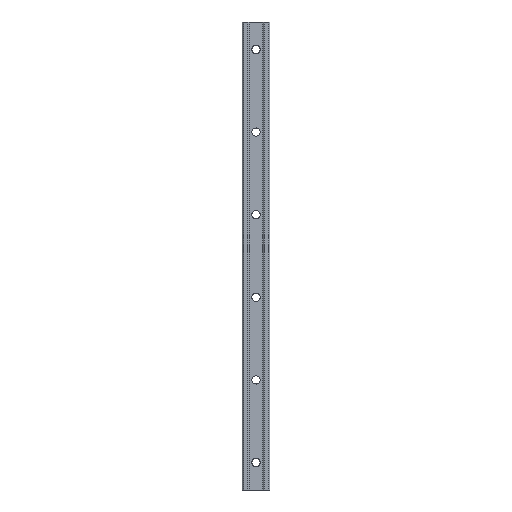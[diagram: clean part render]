
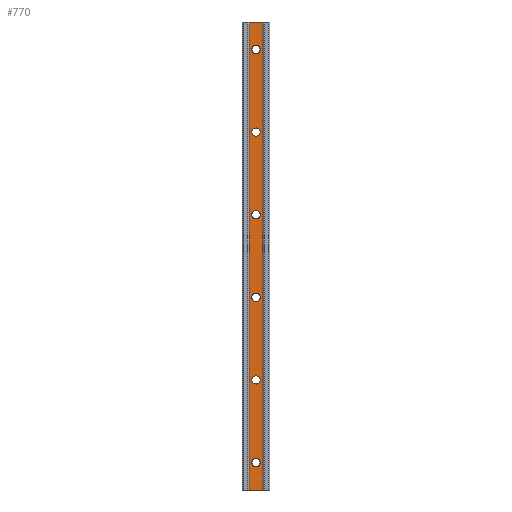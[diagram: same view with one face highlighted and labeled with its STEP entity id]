
A CAD part, front view. The second image highlights one B-rep face of the part: STEP entity #770.
In plain terms, the highlighted planar face has unit normal (0, -1, 0).
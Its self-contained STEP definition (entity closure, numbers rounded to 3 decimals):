
#23 = CARTESIAN_POINT ( 'NONE',  ( 0., 1., 150. ) ) ;
#27 = CARTESIAN_POINT ( 'NONE',  ( -5., 1., -170. ) ) ;
#30 = VERTEX_POINT ( 'NONE', #1234 ) ;
#39 = CARTESIAN_POINT ( 'NONE',  ( 0., 1., -87. ) ) ;
#41 = DIRECTION ( 'NONE',  ( 0., 1., 0. ) ) ;
#49 = EDGE_CURVE ( 'NONE', #266, #128, #1496, .T. ) ;
#70 = EDGE_LOOP ( 'NONE', ( #1321, #370 ) ) ;
#86 = EDGE_CURVE ( 'NONE', #1303, #554, #959, .T. ) ;
#91 = ORIENTED_EDGE ( 'NONE', *, *, #377, .T. ) ;
#109 = DIRECTION ( 'NONE',  ( 0., 1., 0. ) ) ;
#116 = DIRECTION ( 'NONE',  ( 0., 1., 0. ) ) ;
#118 = AXIS2_PLACEMENT_3D ( 'NONE', #23, #268, #1156 ) ;
#123 = LINE ( 'NONE', #994, #1599 ) ;
#128 = VERTEX_POINT ( 'NONE', #1542 ) ;
#136 = LINE ( 'NONE', #1431, #1743 ) ;
#156 = EDGE_CURVE ( 'NONE', #1027, #1220, #365, .T. ) ;
#167 = DIRECTION ( 'NONE',  ( 0., 0., 1. ) ) ;
#199 = AXIS2_PLACEMENT_3D ( 'NONE', #1609, #1172, #167 ) ;
#218 = EDGE_LOOP ( 'NONE', ( #1497, #759 ) ) ;
#221 = VERTEX_POINT ( 'NONE', #1690 ) ;
#228 = DIRECTION ( 'NONE',  ( 0., 1., 0. ) ) ;
#253 = VECTOR ( 'NONE', #675, 1000. ) ;
#257 = AXIS2_PLACEMENT_3D ( 'NONE', #783, #1077, #1395 ) ;
#266 = VERTEX_POINT ( 'NONE', #378 ) ;
#268 = DIRECTION ( 'NONE',  ( 0., 1., 0. ) ) ;
#269 = DIRECTION ( 'NONE',  ( 0., 1., 0. ) ) ;
#280 = ORIENTED_EDGE ( 'NONE', *, *, #501, .T. ) ;
#290 = DIRECTION ( 'NONE',  ( 0., 0., 1. ) ) ;
#294 = ORIENTED_EDGE ( 'NONE', *, *, #790, .T. ) ;
#315 = EDGE_CURVE ( 'NONE', #1748, #921, #1051, .T. ) ;
#318 = CARTESIAN_POINT ( 'NONE',  ( 0., 1., 27. ) ) ;
#325 = FACE_BOUND ( 'NONE', #218, .T. ) ;
#328 = VERTEX_POINT ( 'NONE', #1267 ) ;
#348 = VERTEX_POINT ( 'NONE', #969 ) ;
#356 = CARTESIAN_POINT ( 'NONE',  ( 0., 1., -90. ) ) ;
#365 = LINE ( 'NONE', #1251, #981 ) ;
#370 = ORIENTED_EDGE ( 'NONE', *, *, #1823, .T. ) ;
#374 = DIRECTION ( 'NONE',  ( 0., 1., 0. ) ) ;
#377 = EDGE_CURVE ( 'NONE', #1499, #1699, #806, .T. ) ;
#378 = CARTESIAN_POINT ( 'NONE',  ( 0., 1., -147. ) ) ;
#403 = EDGE_CURVE ( 'NONE', #221, #1220, #123, .T. ) ;
#422 = ORIENTED_EDGE ( 'NONE', *, *, #49, .T. ) ;
#439 = FACE_BOUND ( 'NONE', #1529, .T. ) ;
#501 = EDGE_CURVE ( 'NONE', #921, #1748, #504, .T. ) ;
#504 = CIRCLE ( 'NONE', #118, 3. ) ;
#506 = CARTESIAN_POINT ( 'NONE',  ( -5., 1., 170. ) ) ;
#510 = DIRECTION ( 'NONE',  ( -1., 0., 0. ) ) ;
#515 = ORIENTED_EDGE ( 'NONE', *, *, #1128, .T. ) ;
#523 = DIRECTION ( 'NONE',  ( 0., 0., 1. ) ) ;
#554 = VERTEX_POINT ( 'NONE', #39 ) ;
#600 = EDGE_LOOP ( 'NONE', ( #422, #515 ) ) ;
#603 = EDGE_LOOP ( 'NONE', ( #294, #91 ) ) ;
#604 = EDGE_CURVE ( 'NONE', #328, #621, #1528, .T. ) ;
#621 = VERTEX_POINT ( 'NONE', #318 ) ;
#629 = DIRECTION ( 'NONE',  ( 0., 1., 0. ) ) ;
#649 = VERTEX_POINT ( 'NONE', #1015 ) ;
#666 = CIRCLE ( 'NONE', #1675, 3. ) ;
#675 = DIRECTION ( 'NONE',  ( -1., 0., 0. ) ) ;
#713 = FACE_BOUND ( 'NONE', #836, .T. ) ;
#730 = DIRECTION ( 'NONE',  ( 0., 1., 0. ) ) ;
#739 = ORIENTED_EDGE ( 'NONE', *, *, #403, .F. ) ;
#754 = CARTESIAN_POINT ( 'NONE',  ( 0., 1., -30. ) ) ;
#759 = ORIENTED_EDGE ( 'NONE', *, *, #1435, .T. ) ;
#770 = ADVANCED_FACE ( 'NONE', ( #1576, #325, #1491, #439, #1095, #713, #1123 ), #1718, .F. ) ;
#783 = CARTESIAN_POINT ( 'NONE',  ( 0., 1., -150. ) ) ;
#790 = EDGE_CURVE ( 'NONE', #1699, #1499, #666, .T. ) ;
#806 = CIRCLE ( 'NONE', #1611, 3. ) ;
#816 = CARTESIAN_POINT ( 'NONE',  ( -5., 1., -170. ) ) ;
#836 = EDGE_LOOP ( 'NONE', ( #1684, #280 ) ) ;
#847 = CARTESIAN_POINT ( 'NONE',  ( 0., 1., 30. ) ) ;
#857 = ORIENTED_EDGE ( 'NONE', *, *, #156, .T. ) ;
#879 = AXIS2_PLACEMENT_3D ( 'NONE', #1716, #269, #1009 ) ;
#883 = AXIS2_PLACEMENT_3D ( 'NONE', #1809, #1402, #1655 ) ;
#896 = EDGE_CURVE ( 'NONE', #348, #1027, #136, .T. ) ;
#921 = VERTEX_POINT ( 'NONE', #1331 ) ;
#939 = AXIS2_PLACEMENT_3D ( 'NONE', #1129, #1681, #1561 ) ;
#944 = AXIS2_PLACEMENT_3D ( 'NONE', #356, #109, #951 ) ;
#951 = DIRECTION ( 'NONE',  ( 0., 0., 1. ) ) ;
#959 = CIRCLE ( 'NONE', #1177, 3. ) ;
#965 = ORIENTED_EDGE ( 'NONE', *, *, #1245, .F. ) ;
#969 = CARTESIAN_POINT ( 'NONE',  ( 5., 1., -170. ) ) ;
#981 = VECTOR ( 'NONE', #510, 1000. ) ;
#994 = CARTESIAN_POINT ( 'NONE',  ( -5., 1., -170. ) ) ;
#1009 = DIRECTION ( 'NONE',  ( 0., 0., 1. ) ) ;
#1015 = CARTESIAN_POINT ( 'NONE',  ( 0., 1., 87. ) ) ;
#1019 = CARTESIAN_POINT ( 'NONE',  ( 0., 1., -33. ) ) ;
#1027 = VERTEX_POINT ( 'NONE', #1316 ) ;
#1037 = EDGE_LOOP ( 'NONE', ( #857, #739, #965, #1150 ) ) ;
#1038 = ORIENTED_EDGE ( 'NONE', *, *, #1143, .T. ) ;
#1051 = CIRCLE ( 'NONE', #939, 3. ) ;
#1077 = DIRECTION ( 'NONE',  ( 0., 1., 0. ) ) ;
#1095 = FACE_BOUND ( 'NONE', #600, .T. ) ;
#1108 = DIRECTION ( 'NONE',  ( 0., 0., 1. ) ) ;
#1109 = CARTESIAN_POINT ( 'NONE',  ( 0., 1., -90. ) ) ;
#1119 = CIRCLE ( 'NONE', #944, 3. ) ;
#1123 = FACE_OUTER_BOUND ( 'NONE', #1037, .T. ) ;
#1128 = EDGE_CURVE ( 'NONE', #128, #266, #1365, .T. ) ;
#1129 = CARTESIAN_POINT ( 'NONE',  ( 0., 1., 150. ) ) ;
#1143 = EDGE_CURVE ( 'NONE', #554, #1303, #1119, .T. ) ;
#1150 = ORIENTED_EDGE ( 'NONE', *, *, #896, .T. ) ;
#1156 = DIRECTION ( 'NONE',  ( 0., 0., 1. ) ) ;
#1157 = DIRECTION ( 'NONE',  ( 0., 0., 1. ) ) ;
#1172 = DIRECTION ( 'NONE',  ( 0., 1., 0. ) ) ;
#1177 = AXIS2_PLACEMENT_3D ( 'NONE', #1109, #374, #523 ) ;
#1201 = AXIS2_PLACEMENT_3D ( 'NONE', #27, #730, #1575 ) ;
#1220 = VERTEX_POINT ( 'NONE', #506 ) ;
#1234 = CARTESIAN_POINT ( 'NONE',  ( 0., 1., 93. ) ) ;
#1244 = CARTESIAN_POINT ( 'NONE',  ( 0., 1., 90. ) ) ;
#1245 = EDGE_CURVE ( 'NONE', #348, #221, #1759, .T. ) ;
#1251 = CARTESIAN_POINT ( 'NONE',  ( -5., 1., 170. ) ) ;
#1263 = AXIS2_PLACEMENT_3D ( 'NONE', #847, #41, #1157 ) ;
#1267 = CARTESIAN_POINT ( 'NONE',  ( 0., 1., 33. ) ) ;
#1292 = DIRECTION ( 'NONE',  ( 0., 0., 1. ) ) ;
#1303 = VERTEX_POINT ( 'NONE', #1404 ) ;
#1316 = CARTESIAN_POINT ( 'NONE',  ( 5., 1., 170. ) ) ;
#1321 = ORIENTED_EDGE ( 'NONE', *, *, #1437, .T. ) ;
#1331 = CARTESIAN_POINT ( 'NONE',  ( 0., 1., 147. ) ) ;
#1351 = DIRECTION ( 'NONE',  ( 0., 0., 1. ) ) ;
#1365 = CIRCLE ( 'NONE', #257, 3. ) ;
#1383 = ORIENTED_EDGE ( 'NONE', *, *, #86, .T. ) ;
#1395 = DIRECTION ( 'NONE',  ( 0., 0., 1. ) ) ;
#1402 = DIRECTION ( 'NONE',  ( 0., 1., 0. ) ) ;
#1404 = CARTESIAN_POINT ( 'NONE',  ( 0., 1., -93. ) ) ;
#1431 = CARTESIAN_POINT ( 'NONE',  ( 5., 1., -170. ) ) ;
#1435 = EDGE_CURVE ( 'NONE', #621, #328, #1778, .T. ) ;
#1437 = EDGE_CURVE ( 'NONE', #30, #649, #1633, .T. ) ;
#1491 = FACE_BOUND ( 'NONE', #603, .T. ) ;
#1496 = CIRCLE ( 'NONE', #883, 3. ) ;
#1497 = ORIENTED_EDGE ( 'NONE', *, *, #604, .T. ) ;
#1499 = VERTEX_POINT ( 'NONE', #1019 ) ;
#1511 = CARTESIAN_POINT ( 'NONE',  ( 0., 1., 153. ) ) ;
#1518 = CARTESIAN_POINT ( 'NONE',  ( 0., 1., -27. ) ) ;
#1528 = CIRCLE ( 'NONE', #199, 3. ) ;
#1529 = EDGE_LOOP ( 'NONE', ( #1038, #1383 ) ) ;
#1542 = CARTESIAN_POINT ( 'NONE',  ( 0., 1., -153. ) ) ;
#1561 = DIRECTION ( 'NONE',  ( 0., 0., 1. ) ) ;
#1575 = DIRECTION ( 'NONE',  ( 0., 0., 1. ) ) ;
#1576 = FACE_BOUND ( 'NONE', #70, .T. ) ;
#1599 = VECTOR ( 'NONE', #1292, 1000. ) ;
#1609 = CARTESIAN_POINT ( 'NONE',  ( 0., 1., 30. ) ) ;
#1611 = AXIS2_PLACEMENT_3D ( 'NONE', #1692, #116, #1108 ) ;
#1633 = CIRCLE ( 'NONE', #879, 3. ) ;
#1644 = AXIS2_PLACEMENT_3D ( 'NONE', #1244, #228, #1680 ) ;
#1655 = DIRECTION ( 'NONE',  ( 0., 0., 1. ) ) ;
#1675 = AXIS2_PLACEMENT_3D ( 'NONE', #754, #629, #1351 ) ;
#1680 = DIRECTION ( 'NONE',  ( 0., 0., 1. ) ) ;
#1681 = DIRECTION ( 'NONE',  ( 0., 1., 0. ) ) ;
#1684 = ORIENTED_EDGE ( 'NONE', *, *, #315, .T. ) ;
#1690 = CARTESIAN_POINT ( 'NONE',  ( -5., 1., -170. ) ) ;
#1692 = CARTESIAN_POINT ( 'NONE',  ( 0., 1., -30. ) ) ;
#1696 = CIRCLE ( 'NONE', #1644, 3. ) ;
#1699 = VERTEX_POINT ( 'NONE', #1518 ) ;
#1716 = CARTESIAN_POINT ( 'NONE',  ( 0., 1., 90. ) ) ;
#1718 = PLANE ( 'NONE',  #1201 ) ;
#1743 = VECTOR ( 'NONE', #290, 1000. ) ;
#1748 = VERTEX_POINT ( 'NONE', #1511 ) ;
#1759 = LINE ( 'NONE', #816, #253 ) ;
#1778 = CIRCLE ( 'NONE', #1263, 3. ) ;
#1809 = CARTESIAN_POINT ( 'NONE',  ( 0., 1., -150. ) ) ;
#1823 = EDGE_CURVE ( 'NONE', #649, #30, #1696, .T. ) ;
